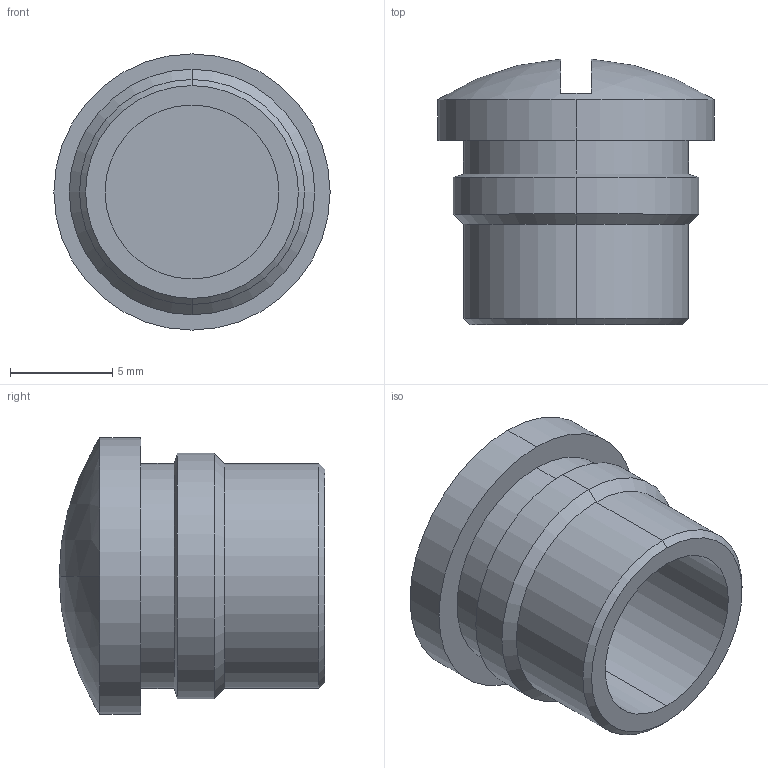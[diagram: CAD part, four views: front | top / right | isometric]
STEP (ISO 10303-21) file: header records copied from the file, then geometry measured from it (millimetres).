
FILE_DESCRIPTION (( 'STEP AP214' ), '1' );
FILE_NAME ('胶农幅 敲矾弊.STEP', '2021-03-08T04:00:30', ( '' ), ( '' ), 'SwSTEP 2.0', 'SolidWorks 2018', '' );
FILE_SCHEMA (( 'AUTOMOTIVE_DESIGN' ));
Length unit declared in the file: millimetre
Products named in the file (1): 蝶觼盟 Ы楝斜
Bounding box: 13.5 x 12.98 x 13.5 mm (x, y, z)
Volume: 793.5 mm3; surface area: 983.7 mm2
Topology: 1 solids, 1 shells, 24 faces, 50 edges, 30 vertices
Faces by surface type: cylinder 10, cone 6, plane 6, sphere 2
Entity records: 680 total; most frequent: DIRECTION 132, CARTESIAN_POINT 105, ORIENTED_EDGE 100, AXIS2_PLACEMENT_3D 57, EDGE_CURVE 50, CIRCLE 32, VERTEX_POINT 30, EDGE_LOOP 26
